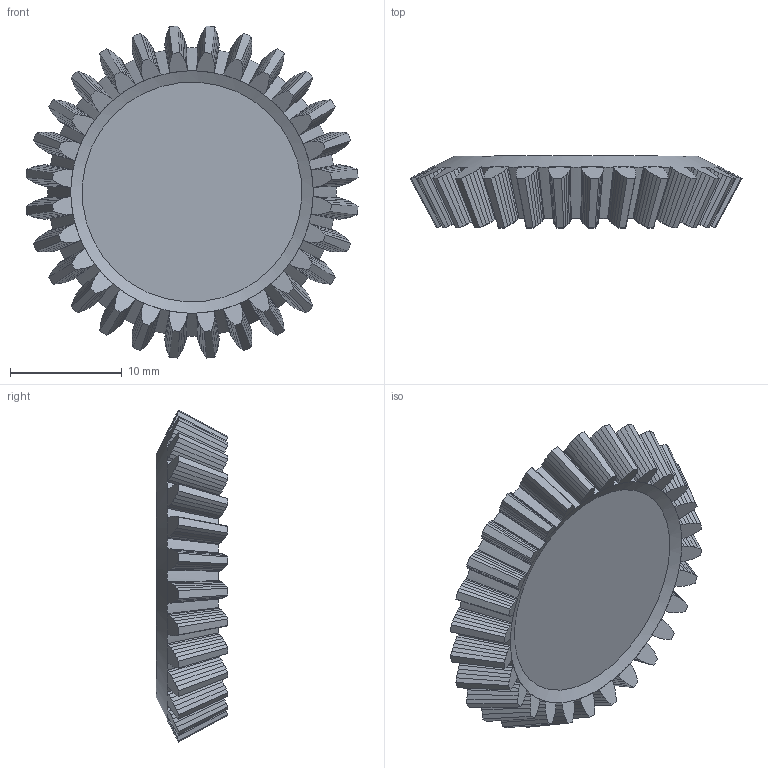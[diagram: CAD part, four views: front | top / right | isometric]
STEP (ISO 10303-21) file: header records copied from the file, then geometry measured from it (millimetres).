
FILE_DESCRIPTION(/* description */ ('STEP AP242','CAx-IF Rec.Pracs.---Representation and Presentation of Product Manufacturing Information (PMI)---4.0---2014-10-13','CAx-IF Rec.Pracs.---3D Tessellated Geometry---0.4---2014-09-14','2;1'),/* implementation_level */ '2;1');
FILE_NAME(/* name */ 'Part Studio 1 - Stepper Gear',/* time_stamp */ '2025-09-04T05:47:30Z',/* author */ (''),/* organization */ (''),/* preprocessor_version */ 'ST-DEVELOPER v20',/* originating_system */ 'ONSHAPE BY PTC INC, 1.203',/* authorisation */ ' ');
FILE_SCHEMA (('AP242_MANAGED_MODEL_BASED_3D_ENGINEERING_MIM_LF { 1 0 10303 442 1 1 4 }'));
Length unit declared in the file: metre
Products named in the file (1): Stepper Gear
Bounding box: 29.68 x 6.41 x 29.68 mm (x, y, z)
Volume: 2705.7 mm3; surface area: 1924 mm2
Topology: 1 solids, 1 shells, 508 faces, 1460 edges, 954 vertices
Faces by surface type: plane 478, cone 30
Entity records: 16382 total; most frequent: CARTESIAN_POINT 3089, ORIENTED_EDGE 2916, DIRECTION 2534, EDGE_CURVE 1458, LINE 1288, VECTOR 1288, VERTEX_POINT 954, AXIS2_PLACEMENT_3D 623
